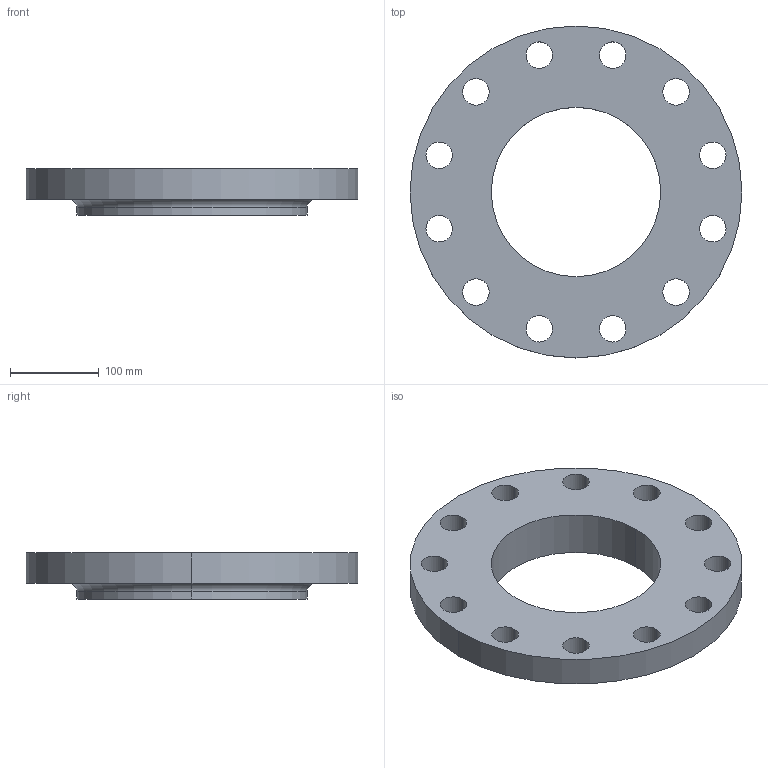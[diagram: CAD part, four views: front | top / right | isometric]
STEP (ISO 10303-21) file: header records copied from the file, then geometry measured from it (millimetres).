
FILE_DESCRIPTION (( 'STEP AP214' ), '1' );
FILE_NAME ('PN40 DN200 Type 13 - Type A Face.STEP', '2019-01-05T02:10:35', ( '' ), ( '' ), 'SwSTEP 2.0', 'SolidWorks 2019', '' );
FILE_SCHEMA (( 'AUTOMOTIVE_DESIGN' ));
Length unit declared in the file: millimetre
Products named in the file (1): PN40 DN200 Type 13 - Type A Face
Bounding box: 375 x 375 x 52 mm (x, y, z)
Volume: 2945070.6 mm3; surface area: 267427.8 mm2
Topology: 1 solids, 1 shells, 35 faces, 94 edges, 62 vertices
Faces by surface type: cylinder 30, plane 3, torus 2
Entity records: 1222 total; most frequent: DIRECTION 230, CARTESIAN_POINT 192, ORIENTED_EDGE 188, AXIS2_PLACEMENT_3D 100, EDGE_CURVE 94, CIRCLE 64, VERTEX_POINT 62, EDGE_LOOP 62
